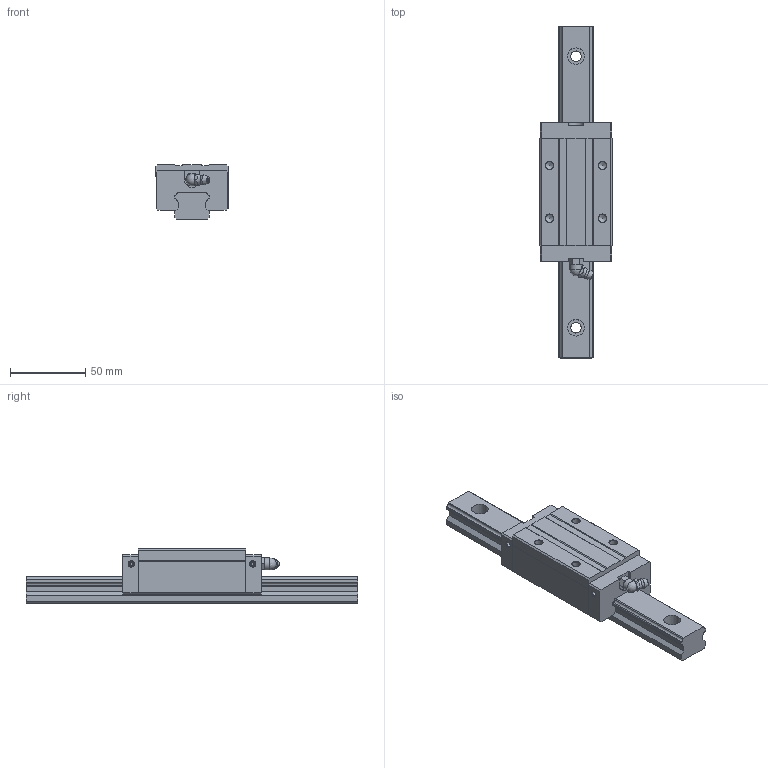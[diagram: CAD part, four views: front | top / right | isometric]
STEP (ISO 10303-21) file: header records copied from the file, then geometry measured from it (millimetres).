
FILE_DESCRIPTION(/* description */ (''),/* implementation_level */ '2;1');
FILE_NAME(/* name */ 'SME25-SV',/* time_stamp */ '2008-10-06T09:47:59+08:00',/* author */ (''),/* organization */ (''),/* preprocessor_version */ 'ST-DEVELOPER v11',/* originating_system */ 'UGS - NX 5.0',/* authorisation */ '');
FILE_SCHEMA (('AUTOMOTIVE_DESIGN { 1 0 10303 214 1 1 1 1 }'));
Length unit declared in the file: millimetre
Products named in the file (1): SME25SV_UG
Bounding box: 48 x 220 x 36 mm (x, y, z)
Volume: 182472.5 mm3; surface area: 41102.7 mm2
Topology: 3 solids, 3 shells, 175 faces, 455 edges, 300 vertices
Faces by surface type: plane 103, cylinder 49, cone 13, torus 7, sphere 2, bspline 1
Full cylindrical faces by diameter (mm): 2 x4, 3.3 x4, 5.2 x4, 6.5 x2, 7 x4, 8 x1, 11 x4
Entity records: 5397 total; most frequent: CARTESIAN_POINT 1026, DIRECTION 848, ORIENTED_EDGE 790, EDGE_CURVE 395, AXIS2_PLACEMENT_3D 298, VERTEX_POINT 284, LINE 252, VECTOR 252
